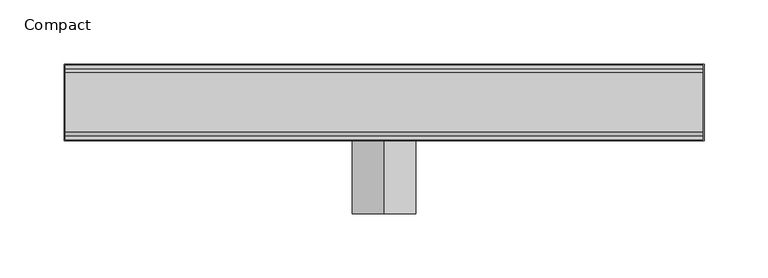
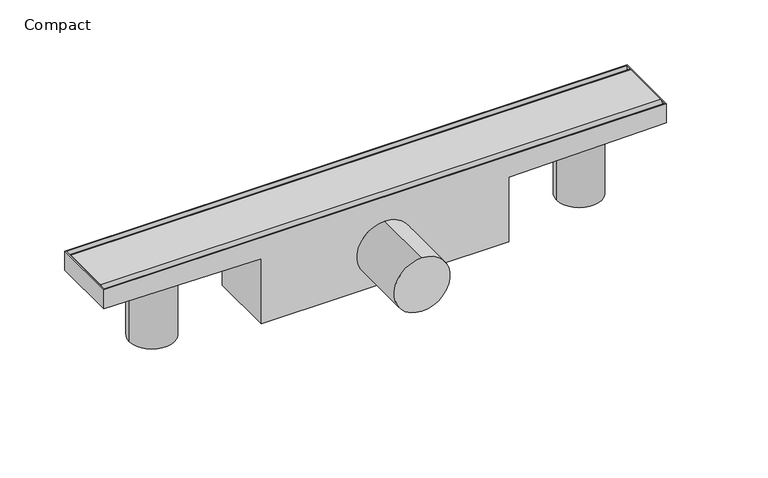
"""IFC4 building model written with IfcOpenShell, lengths in millimetres: sanitary terminal geometry, NLRS_PF_52_UN_Compact_Easydrain : Compact."""

from ifc_helpers import new_model, si_unit, point, frame, frame_2d, origin, place, context, project, spatial, polyline, circle_curve, trimmed, segment, composite_curve, outline, extrude, source, transform, mapped, element, save
from ifc_brep_helpers import plane_surface, cylinder_surface, advanced_brep


def compact_89d7015a(model_context):
    return source(origin(), model_context, "Body", "SolidModel", [
        extrude(outline(composite_curve([segment(polyline([(-23.0, 0.0), (23.0, 0.0)]), True, "CONTINUOUS"), segment(trimmed(circle_curve(frame_2d((23.0, -3.0)), 3.0), [point((23.0, 0.0))], [point((26.0, -3.0))], False, "CARTESIAN"), True, "CONTINUOUS"), segment(polyline([(26.0, -3.0), (26.0, -12.0), (-26.0, -12.0), (-26.0, -3.0)]), True, "CONTINUOUS"), segment(trimmed(circle_curve(frame_2d((-23.0, -3.0)), 3.0), [point((-26.0, -3.0))], [point((-23.0, 0.0))], False, "CARTESIAN"), True, "CONTINUOUS")], self_intersect=False)), frame((-249.0, 0.0, 0.0), z_axis=(1.0, 0.0, 0.0), x_axis=(0.0, 1.0, 0.0)), (0.0, 0.0, 1.0), 498.0),
        extrude(outline(composite_curve([segment(trimmed(circle_curve(frame_2d((190.0, 0.0)), 20.0), [point((210.0, 0.0))], [point((170.0, 0.0))], False, "CARTESIAN"), True, "CONTINUOUS"), segment(trimmed(circle_curve(frame_2d((190.0, 0.0)), 20.0), [point((170.0, 0.0))], [point((210.0, 0.0))], False, "CARTESIAN"), True, "CONTINUOUS")], self_intersect=False)), frame((0.0, 0.0, -81.0), z_axis=(0.0, 0.0, 1.0), x_axis=(1.0, 0.0, 0.0)), (0.0, 0.0, 1.0), 63.0),
        extrude(outline(composite_curve([segment(trimmed(circle_curve(frame_2d((-190.0, 0.0)), 20.0), [point((-210.0, 0.0))], [point((-170.0, 0.0))], False, "CARTESIAN"), True, "CONTINUOUS"), segment(trimmed(circle_curve(frame_2d((-190.0, 0.0)), 20.0), [point((-170.0, 0.0))], [point((-210.0, 0.0))], False, "CARTESIAN"), True, "CONTINUOUS")], self_intersect=False)), frame((0.0, 0.0, -81.0), z_axis=(0.0, 0.0, 1.0), x_axis=(1.0, 0.0, 0.0)), (0.0, 0.0, 1.0), 63.0),
        advanced_brep(
        [(-250.0, -30.0, -18.0), (-110.0, -30.0, -20.0), (-110.0, -30.0, -81.0), (110.0, -30.0, -81.0), (110.0, -30.0, -20.0), (250.0, -30.0, -18.0), (250.0, -30.0, 0.0), (-250.0, -30.0, 0.0), (0.0, -30.0, -23.0), (0.0, -30.0, -73.0), (-250.0, 30.0, -18.0), (-250.0, 30.0, 0.0), (250.0, 30.0, 0.0), (250.0, 30.0, -18.0), (110.0, 30.0, -20.0), (110.0, 30.0, -81.0), (-110.0, 30.0, -81.0), (-110.0, 30.0, -20.0), (-249.0, 29.0, 0.0), (249.0, 29.0, 0.0), (249.0, -29.0, 0.0), (-249.0, -29.0, 0.0), (0.0, -87.0466767, -23.0), (0.0, -87.0466767, -73.0), (249.0, 29.0, -12.0), (-249.0, 29.0, -12.0), (-249.0, -29.0, -12.0), (249.0, -29.0, -12.0)],
        [
            (0, 1),
            (1, 2),
            (2, 3),
            (3, 4),
            (4, 5),
            (5, 6),
            (6, 7),
            (7, 0),
            (8, 9, circle_curve(frame((0.0, -30.0, -48.0), z_axis=(0.0, 1.0, 0.0), x_axis=(0.0, 0.0, -1.0)), 25.0)),
            (9, 8, circle_curve(frame((0.0, -30.0, -48.0), z_axis=(0.0, 1.0, 0.0), x_axis=(0.0, 0.0, -1.0)), 25.0)),
            (10, 11),
            (11, 12),
            (12, 13),
            (13, 14),
            (14, 15),
            (15, 16),
            (16, 17),
            (17, 10),
            (0, 10),
            (17, 1),
            (5, 13),
            (12, 6),
            (11, 7),
            (18, 19),
            (19, 20),
            (20, 21),
            (21, 18),
            (16, 2),
            (15, 3),
            (14, 4),
            (22, 23, circle_curve(frame((0.0, -87.0466767, -48.0), z_axis=(0.0, -1.0, 0.0), x_axis=(0.0, 0.0, -1.0)), 25.0)),
            (23, 22, circle_curve(frame((0.0, -87.0466767, -48.0), z_axis=(0.0, -1.0, 0.0), x_axis=(0.0, 0.0, -1.0)), 25.0)),
            (23, 9),
            (8, 22),
            (24, 25),
            (25, 26),
            (26, 27),
            (27, 24),
            (24, 19),
            (18, 25),
            (21, 26),
            (20, 27),
        ],
        [
            plane_surface(frame((-250.0, -30.0, -18.0), z_axis=(0.0, -1.0, 0.0), x_axis=(0.99989797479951, 0.0, -0.014284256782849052))),
            plane_surface(frame((-250.0, 30.0, -18.0), z_axis=(0.0, 1.0, 0.0), x_axis=(-0.99989797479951, 0.0, 0.014284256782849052))),
            plane_surface(frame((-250.0, -30.0, -18.0), z_axis=(-0.014284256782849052, 0.0, -0.99989797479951), x_axis=(0.0, 1.0, 0.0))),
            plane_surface(frame((250.0, -30.0, -18.0), z_axis=(1.0, 0.0, 0.0), x_axis=(0.0, 1.0, 0.0))),
            plane_surface(frame((250.0, -30.0, 0.0), z_axis=(0.0, 0.0, 1.0), x_axis=(0.0, 1.0, 0.0))),
            plane_surface(frame((-250.0, -30.0, 0.0), z_axis=(-1.0, 0.0, 0.0), x_axis=(0.0, 1.0, 0.0))),
            plane_surface(frame((-110.0, -30.0, -20.0), z_axis=(-1.0, 0.0, 0.0), x_axis=(0.0, 1.0, 0.0))),
            plane_surface(frame((-110.0, -30.0, -81.0), z_axis=(0.0, 0.0, -1.0), x_axis=(0.0, 1.0, 0.0))),
            plane_surface(frame((110.0, -30.0, -81.0), z_axis=(1.0, 0.0, 0.0), x_axis=(0.0, 1.0, 0.0))),
            plane_surface(frame((110.0, -30.0, -20.0), z_axis=(0.01428425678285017, 0.0, -0.99989797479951), x_axis=(0.0, 1.0, 0.0))),
            plane_surface(frame((0.0, -87.0466767, -48.0), z_axis=(0.0, -1.0, 0.0), x_axis=(1.0, 0.0, 0.0))),
            cylinder_surface(frame((0.0, 0.0, -48.0), z_axis=(0.0, 1.0, 0.0), x_axis=(0.0, 0.0, -1.0)), 25.0),
            plane_surface(frame((-249.0, 29.0, -12.0), z_axis=(0.0, 0.0, 1.0), x_axis=(1.0, 0.0, 0.0))),
            plane_surface(frame((249.0, 29.0, 0.0), z_axis=(0.0, -1.0, 0.0), x_axis=(0.0, 0.0, -1.0))),
            plane_surface(frame((-249.0, 29.0, 0.0), z_axis=(1.0, 0.0, 0.0), x_axis=(0.0, 0.0, -1.0))),
            plane_surface(frame((-249.0, -29.0, 0.0), z_axis=(0.0, 1.0, 0.0), x_axis=(0.0, 0.0, -1.0))),
            plane_surface(frame((249.0, -29.0, 0.0), z_axis=(-1.0, 0.0, 0.0), x_axis=(0.0, 0.0, -1.0))),
        ],
        [
            (0, [[1, 2, 3, 4, 5, 6, 7, 8], [9, 10]]),
            (1, [[11, 12, 13, 14, 15, 16, 17, 18]]),
            (2, [[-1, 19, -18, 20]]),
            (3, [[-6, 21, -13, 22]]),
            (4, [[-7, -22, -12, 23], [24, 25, 26, 27]]),
            (5, [[-8, -23, -11, -19]]),
            (6, [[-2, -20, -17, 28]]),
            (7, [[-3, -28, -16, 29]]),
            (8, [[-4, -29, -15, 30]]),
            (9, [[-5, -30, -14, -21]]),
            (10, [[31, 32]]),
            (11, [[-32, 33, -9, 34]]),
            (11, [[-31, -34, -10, -33]]),
            (12, [[35, 36, 37, 38]]),
            (13, [[-35, 39, -24, 40]]),
            (14, [[-36, -40, -27, 41]]),
            (15, [[-37, -41, -26, 42]]),
            (16, [[-38, -42, -25, -39]]),
        ],
    ),
    ])


if __name__ == "__main__":
    model = new_model("IFC4")
    model_context = context("Model", 3, world=origin())
    ifc_project = project(units=[si_unit("LENGTHUNIT", "METRE", prefix="MILLI")], contexts=[model_context])
    site = spatial("IfcSite", under=ifc_project)
    building = spatial("IfcBuilding", under=site)
    placement = place(None, origin())
    compact_shape = compact_89d7015a(model_context)
    element("IfcSanitaryTerminal", 1, ObjectType="NLRS_PF_52_UN_Compact_Easydrain : Compact", at=placement, inside=building, context=model_context, shape_type="MappedRepresentation", body=[
        mapped(compact_shape, transform((0.0, 0.0, 0.0), x_axis=(1.0, 0.0, 0.0), y_axis=(0.0, 1.0, 0.0), z_axis=(0.0, 0.0, 1.0))),
    ])
    save(model, "model.ifc")
